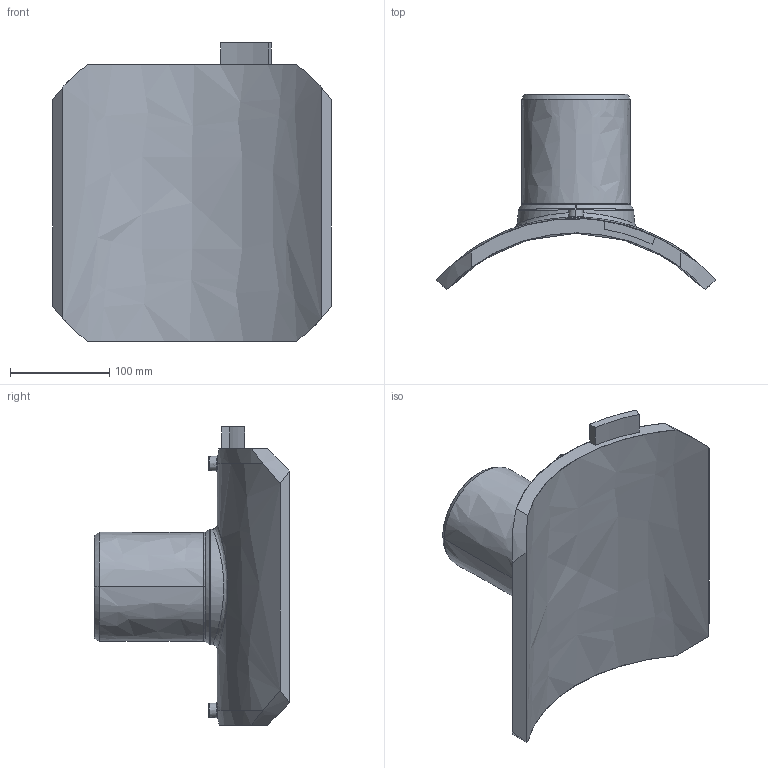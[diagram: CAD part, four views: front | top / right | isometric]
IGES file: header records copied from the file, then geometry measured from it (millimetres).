
Start section:  PTC IGES file: sa-uni_d355_110_01.igs
Global section: file name: sa-uni_d355_110_01.igs; native system: Pro/ENGINEER by Parametric Technology Corporation; preprocessor: 2011490; author: MikulicP; organization: Unknown; date: 20170203.100118; units: millimetre
Bounding box: 281.01 x 196.88 x 301 mm (x, y, z)
Surface area: 271602.8 mm2 (no closed solid volume)
Topology: 0 solids, 0 shells, 204 faces, 1008 edges, 1008 vertices
Faces by surface type: bspline 204
